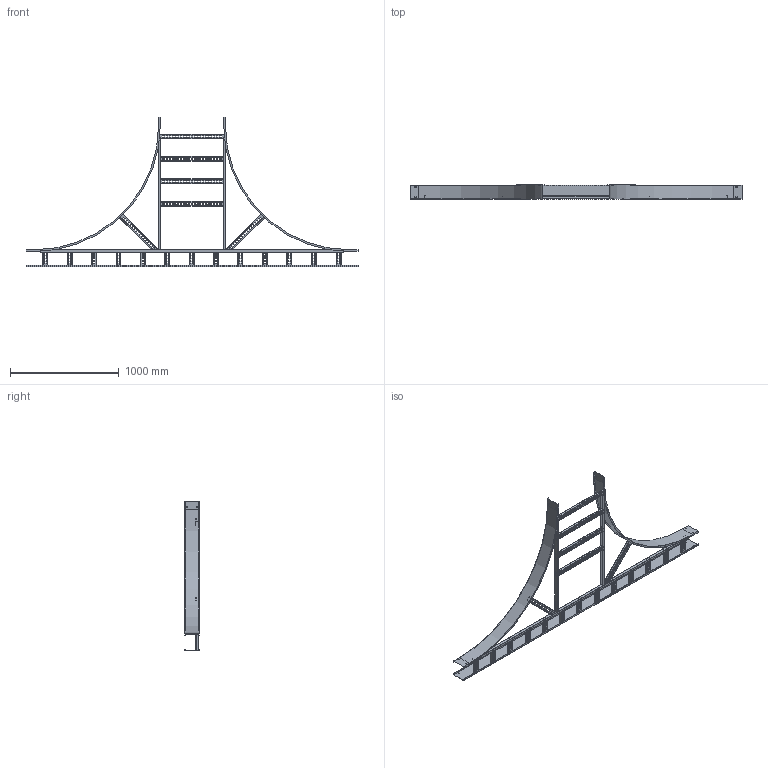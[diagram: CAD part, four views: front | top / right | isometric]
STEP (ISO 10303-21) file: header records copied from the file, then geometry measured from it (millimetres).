
FILE_DESCRIPTION((''),'2;1');
FILE_NAME('AUF50624LET48_ASM','2010-01-28T',('erouzier'),(''),'PRO/ENGINEER BY PARAMETRIC TECHNOLOGY CORPORATION, 2008510','PRO/ENGINEER BY PARAMETRIC TECHNOLOGY CORPORATION, 2008510','');
FILE_SCHEMA(('CONFIG_CONTROL_DESIGN'));
Length unit declared in the file: inch
Products named in the file (21): CDS001320-5-90-45-I; CDS013842-5-120; CDS000495_GEN_AF9; CDS002159L6-P_AF8; CDS002159L6-P_AF9; CDS002159L6-P_AF10; CDS002159L6-P_AF11; CDS002159L6-P; CDS002159L6-P_AF12; CDS002159L6-P_AF13; CDS002159L6-P_AF14; CDS002159L6-P_AF15; CDS000495_GEN_AF10; CDS000495_GEN_AF11; CDS002159L24-P_AF10; CDS002159L24-P_AF11; CDS002159L24-P_AF12; CDS002159L24-P_AF13; CDS002159L24-P_AF14; CDS002159L24-P_AF15; AUF50624LET48_ASM
Assembly tree (25 placements, depth 2):
  AUF50624LET48_ASM
    CDS001320-5-90-45-I  x2
    CDS013842-5-120
    CDS000495_GEN_AF9
    CDS002159L6-P_AF8
    CDS002159L6-P_AF9
    CDS002159L6-P_AF10
    CDS002159L6-P_AF11
    CDS002159L6-P  x5
    CDS002159L6-P_AF12
    CDS002159L6-P_AF13
    CDS002159L6-P_AF14
    CDS002159L6-P_AF15
    CDS000495_GEN_AF10
    CDS000495_GEN_AF11
    CDS002159L24-P_AF10
    CDS002159L24-P_AF11
    CDS002159L24-P_AF12
    CDS002159L24-P_AF13
    CDS002159L24-P_AF14
    CDS002159L24-P_AF15
Bounding box: 3053.08 x 129.03 x 1376.43 mm (x, y, z)
Volume: 4027967 mm3; surface area: 4061147.8 mm2
Topology: 25 solids, 25 shells, 2086 faces, 6108 edges, 4072 vertices
Faces by surface type: plane 1175, cylinder 911
Entity records: 61499 total; most frequent: CARTESIAN_POINT 10826, ORIENTED_EDGE 10584, DIRECTION 10546, EDGE_CURVE 5292, VECTOR 3694, LINE 3694, VERTEX_POINT 3528, AXIS2_PLACEMENT_3D 3426
